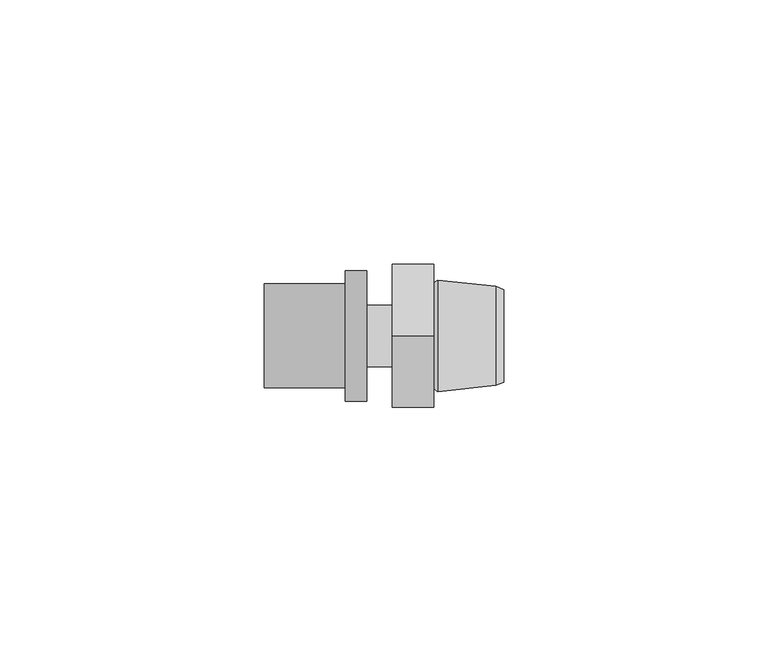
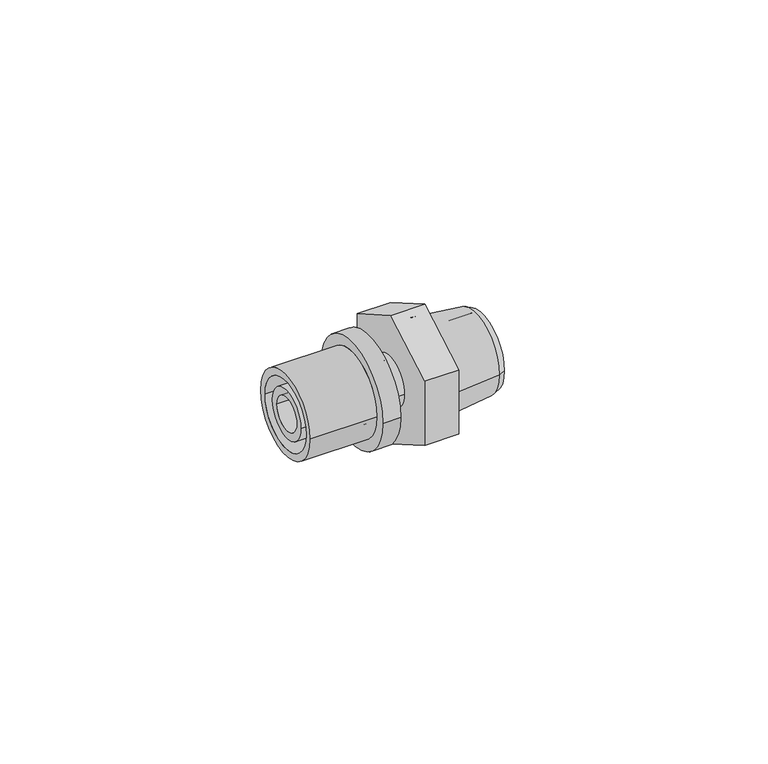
"""IFC4 building model written with IfcOpenShell, lengths in millimetres: pipe fitting geometry, FASTLOC_Adapter_RX+, with external thread : FSL A C external EX+ AT."""

from ifc_helpers import new_model, si_unit, frame, origin, place, context, project, spatial, polyline, circle_curve, outline, extrude, source, transform, mapped, element, save
from ifc_brep_helpers import plane_surface, cylinder_surface, revolved_surface, advanced_brep


def pipe_fitting_3f045704(model_context):
    return source(origin(), model_context, "Body", "SolidModel", [
        advanced_brep(
        [(-8.9, -12.35, 0.0), (-8.9, 12.35, 0.0), (-4.9, 12.35, 0.0), (-4.9, -12.35, 0.0), (-24.2, -9.85, 0.0), (-24.2, 9.85, 0.0), (-8.9, 9.85, 0.0), (-8.9, -9.85, 0.0), (-4.9, -8.15, 0.0), (-4.9, 8.15, 0.0), (-24.2, 8.15, 0.0), (-24.2, -8.15, 0.0)],
        [
            (0, 1, circle_curve(frame((-8.9, 0.0, 0.0), z_axis=(1.0, 0.0, 0.0), x_axis=(0.0, 1.0, 0.0)), 12.35)),
            (1, 2),
            (2, 3, circle_curve(frame((-4.9, 0.0, 0.0), z_axis=(-1.0, 0.0, 0.0), x_axis=(0.0, 1.0, 0.0)), 12.35)),
            (3, 0),
            (4, 5, circle_curve(frame((-24.2, 0.0, 0.0), z_axis=(1.0, 0.0, 0.0), x_axis=(0.0, 1.0, 0.0)), 9.85)),
            (5, 6),
            (6, 7, circle_curve(frame((-8.9, 0.0, 0.0), z_axis=(-1.0, 0.0, 0.0), x_axis=(0.0, 1.0, 0.0)), 9.85)),
            (7, 4),
            (8, 9, circle_curve(frame((-4.9, 0.0, 0.0), z_axis=(1.0, 0.0, 0.0), x_axis=(0.0, 1.0, 0.0)), 8.15)),
            (9, 10),
            (10, 11, circle_curve(frame((-24.2, 0.0, 0.0), z_axis=(-1.0, 0.0, 0.0), x_axis=(0.0, 1.0, 0.0)), 8.15)),
            (11, 8),
            (1, 0, circle_curve(frame((-8.9, 0.0, 0.0), z_axis=(1.0, 0.0, 0.0), x_axis=(0.0, -1.0, 0.0)), 12.35)),
            (3, 2, circle_curve(frame((-4.9, 0.0, 0.0), z_axis=(-1.0, 0.0, 0.0), x_axis=(0.0, -1.0, 0.0)), 12.35)),
            (6, 7, circle_curve(frame((-8.9, 0.0, 0.0), z_axis=(1.0, 0.0, 0.0), x_axis=(0.0, -1.0, 0.0)), 9.85)),
            (5, 4, circle_curve(frame((-24.2, 0.0, 0.0), z_axis=(1.0, 0.0, 0.0), x_axis=(0.0, -1.0, 0.0)), 9.85)),
            (10, 11, circle_curve(frame((-24.2, 0.0, 0.0), z_axis=(1.0, 0.0, 0.0), x_axis=(0.0, -1.0, 0.0)), 8.15)),
            (9, 8, circle_curve(frame((-4.9, 0.0, 0.0), z_axis=(1.0, 0.0, 0.0), x_axis=(0.0, -1.0, 0.0)), 8.15)),
        ],
        [
            cylinder_surface(frame((-4.9, 0.0, 0.0), z_axis=(-1.0, 0.0, 0.0), x_axis=(0.0, 1.0, 0.0)), 12.35),
            cylinder_surface(frame((-4.9, 0.0, 0.0), z_axis=(-1.0, 0.0, 0.0), x_axis=(0.0, 1.0, 0.0)), 9.85),
            revolved_surface(polyline([(-24.199999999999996, 8.15, 0.0), (-4.9, 8.15, 0.0)]), (-4.9, 0.0, 0.0), (-1.0, 0.0, 0.0)),
            cylinder_surface(frame((-4.9, 0.0, 0.0), z_axis=(-1.0, 0.0, 0.0), x_axis=(0.0, -1.0, 0.0)), 12.35),
            plane_surface(frame((-8.9, 0.0, 0.0), z_axis=(-1.0, 0.0, 0.0), x_axis=(0.0, -1.0, 0.0))),
            cylinder_surface(frame((-4.9, 0.0, 0.0), z_axis=(-1.0, 0.0, 0.0), x_axis=(0.0, -1.0, 0.0)), 9.85),
            plane_surface(frame((-24.2, 0.0, 0.0), z_axis=(-1.0, 0.0, 0.0), x_axis=(0.0, -1.0, 0.0))),
            revolved_surface(polyline([(-24.199999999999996, -8.15, 0.0), (-4.9, -8.15, 0.0)]), (-4.9, 0.0, 0.0), (-1.0, 0.0, 0.0)),
            plane_surface(frame((-4.9, 0.0, 0.0), z_axis=(1.0, 0.0, 0.0), x_axis=(0.0, -1.0, 0.0))),
        ],
        [
            (0, [[1, 2, 3, 4]]),
            (1, [[5, 6, 7, 8]]),
            (2, [[9, 10, 11, 12]]),
            (3, [[13, -4, 14, -2]]),
            (4, [[-13, -1], [15, -7]]),
            (5, [[16, -8, -15, -6]]),
            (6, [[-16, -5], [17, -11]]),
            (7, [[18, -12, -17, -10]]),
            (8, [[-14, -3], [-18, -9]]),
        ],
    ),
        advanced_brep(
        [(8.9032803, 7.5, 0.0), (8.9032803, -7.5, 0.0), (21.0, -7.5, 0.0), (21.0, 7.5, 0.0), (7.8, 6.3967197, 0.0), (7.8, -6.3967197, 0.0), (8.5406902, 10.55, 0.0), (8.5406902, -10.55, 0.0), (7.8, -10.0, 0.0), (7.8, 10.0, 0.0), (19.5000007, 9.35, 0.0), (19.5000007, -9.35, 0.0), (21.0, 8.725, 0.0), (21.0, -8.725, 0.0)],
        [
            (0, 1, circle_curve(frame((8.9032803, 0.0, 0.0), z_axis=(-1.0, 0.0, 0.0), x_axis=(0.0, -1.0, 0.0)), 7.5)),
            (1, 2),
            (2, 3, circle_curve(frame((21.0, 0.0, 0.0), z_axis=(1.0, 0.0, 0.0), x_axis=(0.0, -1.0, 0.0)), 7.5)),
            (3, 0),
            (4, 5, circle_curve(frame((7.8, 0.0, 0.0), z_axis=(-1.0, 0.0, 0.0), x_axis=(0.0, -1.0, 0.0)), 6.3967197)),
            (5, 1),
            (0, 4),
            (6, 7, circle_curve(frame((8.5406902, 0.0, 0.0), z_axis=(-1.0, 0.0, 0.0), x_axis=(0.0, -1.0, 0.0)), 10.55)),
            (7, 8),
            (8, 9, circle_curve(frame((7.8, 0.0, 0.0), z_axis=(1.0, 0.0, 0.0), x_axis=(0.0, -1.0, 0.0)), 10.0)),
            (9, 6),
            (10, 11, circle_curve(frame((19.5000007, 0.0, 0.0), z_axis=(-1.0, 0.0, 0.0), x_axis=(0.0, -1.0, 0.0)), 9.35)),
            (11, 7),
            (6, 10),
            (12, 13, circle_curve(frame((21.0, 0.0, 0.0), z_axis=(-1.0, 0.0, 0.0), x_axis=(0.0, -1.0, 0.0)), 8.725)),
            (13, 11),
            (10, 12),
            (1, 0, circle_curve(frame((8.9032803, 0.0, 0.0), z_axis=(-1.0, 0.0, 0.0), x_axis=(0.0, 1.0, 0.0)), 7.5)),
            (3, 2, circle_curve(frame((21.0, 0.0, 0.0), z_axis=(1.0, 0.0, 0.0), x_axis=(0.0, 1.0, 0.0)), 7.5)),
            (5, 4, circle_curve(frame((7.8, 0.0, 0.0), z_axis=(-1.0, 0.0, 0.0), x_axis=(0.0, 1.0, 0.0)), 6.3967197)),
            (8, 9, circle_curve(frame((7.8, 0.0, 0.0), z_axis=(-1.0, 0.0, 0.0), x_axis=(0.0, 1.0, 0.0)), 10.0)),
            (7, 6, circle_curve(frame((8.5406902, 0.0, 0.0), z_axis=(-1.0, 0.0, 0.0), x_axis=(0.0, 1.0, 0.0)), 10.55)),
            (11, 10, circle_curve(frame((19.5000007, 0.0, 0.0), z_axis=(-1.0, 0.0, 0.0), x_axis=(0.0, 1.0, 0.0)), 9.35)),
            (13, 12, circle_curve(frame((21.0, 0.0, 0.0), z_axis=(-1.0, 0.0, 0.0), x_axis=(0.0, 1.0, 0.0)), 8.725)),
        ],
        [
            revolved_surface(polyline([(21.0, -7.5, 0.0), (8.9032803, -7.5, 0.0)]), (0.0, 0.0, 0.0), (1.0, 0.0, 0.0)),
            revolved_surface(polyline([(8.9032803, -7.5, 0.0), (7.8, -6.3967197, 0.0)]), (0.0, 0.0, 0.0), (1.0, 0.0, 0.0)),
            revolved_surface(polyline([(7.8, -10.0, 0.0), (8.5406902, -10.55, 0.0)]), (0.0, 0.0, 0.0), (1.0, 0.0, 0.0)),
            revolved_surface(polyline([(8.5406902, -10.55, 0.0), (19.5000007, -9.35, 0.0)]), (0.0, 0.0, 0.0), (1.0, 0.0, 0.0)),
            revolved_surface(polyline([(19.5000007, -9.35, 0.0), (21.0, -8.725, 0.0)]), (0.0, 0.0, 0.0), (1.0, 0.0, 0.0)),
            revolved_surface(polyline([(21.0, 7.5, 0.0), (8.9032803, 7.5, 0.0)]), (0.0, 0.0, 0.0), (1.0, 0.0, 0.0)),
            revolved_surface(polyline([(8.9032803, 7.5, 0.0), (7.8, 6.3967197, 0.0)]), (0.0, 0.0, 0.0), (1.0, 0.0, 0.0)),
            plane_surface(frame((7.8, 0.0, 0.0), z_axis=(-1.0, 0.0, 0.0), x_axis=(0.0, 1.0, 0.0))),
            revolved_surface(polyline([(7.8, 10.0, 0.0), (8.5406902, 10.55, 0.0)]), (0.0, 0.0, 0.0), (1.0, 0.0, 0.0)),
            revolved_surface(polyline([(8.5406902, 10.55, 0.0), (19.5000007, 9.35, 0.0)]), (0.0, 0.0, 0.0), (1.0, 0.0, 0.0)),
            revolved_surface(polyline([(19.5000007, 9.35, 0.0), (21.0, 8.725, 0.0)]), (0.0, 0.0, 0.0), (1.0, 0.0, 0.0)),
            plane_surface(frame((21.0, 0.0, 0.0), z_axis=(1.0, 0.0, 0.0), x_axis=(0.0, 1.0, 0.0))),
        ],
        [
            (0, [[1, 2, 3, 4]]),
            (1, [[5, 6, -1, 7]]),
            (2, [[8, 9, 10, 11]]),
            (3, [[12, 13, -8, 14]]),
            (4, [[15, 16, -12, 17]]),
            (5, [[18, -4, 19, -2]]),
            (6, [[20, -7, -18, -6]]),
            (7, [[21, -10], [-20, -5]]),
            (8, [[22, -11, -21, -9]]),
            (9, [[23, -14, -22, -13]]),
            (10, [[24, -17, -23, -16]]),
            (11, [[-24, -15], [-19, -3]]),
        ],
    ),
        extrude(outline(polyline([(-13.5, 7.7942286), (0.0, 15.5884573), (13.5, 7.7942286), (13.5, -7.7942286), (0.0, -15.5884573), (-13.5, -7.7942286), (-13.5, 7.7942286)])), frame((0.0, 0.0, 0.0), z_axis=(1.0, 0.0, 0.0), x_axis=(0.0, 1.0, 0.0)), (0.0, 0.0, 1.0), 7.8),
        advanced_brep(
        [(-23.9, 3.95, 0.0), (-23.9, -3.95, 0.0), (0.0, -3.95, 0.0), (0.0, 3.95, 0.0), (0.0, 5.8, 0.0), (0.0, -5.8, 0.0), (-6.2, -5.8, 0.0), (-6.2, 5.8, 0.0), (-6.2, 6.9, 0.0), (-6.2, -6.9, 0.0), (-8.9, -6.9, 0.0), (-8.9, 6.9, 0.0), (-8.9, 5.8, 0.0), (-8.9, -5.8, 0.0), (-23.9, -5.8, 0.0), (-23.9, 5.8, 0.0)],
        [
            (0, 1, circle_curve(frame((-23.9, 0.0, 0.0), z_axis=(-1.0, 0.0, 0.0), x_axis=(0.0, -1.0, 0.0)), 3.95)),
            (1, 2),
            (2, 3, circle_curve(frame((0.0, 0.0, 0.0), z_axis=(1.0, 0.0, 0.0), x_axis=(0.0, -1.0, 0.0)), 3.95)),
            (3, 0),
            (4, 5, circle_curve(frame((0.0, 0.0, 0.0), z_axis=(-1.0, 0.0, 0.0), x_axis=(0.0, -1.0, 0.0)), 5.8)),
            (5, 6),
            (6, 7, circle_curve(frame((-6.2, 0.0, 0.0), z_axis=(1.0, 0.0, 0.0), x_axis=(0.0, -1.0, 0.0)), 5.8)),
            (7, 4),
            (8, 9, circle_curve(frame((-6.2, 0.0, 0.0), z_axis=(-1.0, 0.0, 0.0), x_axis=(0.0, -1.0, 0.0)), 6.9)),
            (9, 10),
            (10, 11, circle_curve(frame((-8.9, 0.0, 0.0), z_axis=(1.0, 0.0, 0.0), x_axis=(0.0, -1.0, 0.0)), 6.9)),
            (11, 8),
            (12, 13, circle_curve(frame((-8.9, 0.0, 0.0), z_axis=(-1.0, 0.0, 0.0), x_axis=(0.0, -1.0, 0.0)), 5.8)),
            (13, 14),
            (14, 15, circle_curve(frame((-23.9, 0.0, 0.0), z_axis=(1.0, 0.0, 0.0), x_axis=(0.0, -1.0, 0.0)), 5.8)),
            (15, 12),
            (1, 0, circle_curve(frame((-23.9, 0.0, 0.0), z_axis=(-1.0, 0.0, 0.0), x_axis=(0.0, 1.0, 0.0)), 3.95)),
            (3, 2, circle_curve(frame((0.0, 0.0, 0.0), z_axis=(1.0, 0.0, 0.0), x_axis=(0.0, 1.0, 0.0)), 3.95)),
            (4, 5, circle_curve(frame((0.0, 0.0, 0.0), z_axis=(1.0, 0.0, 0.0), x_axis=(0.0, 1.0, 0.0)), 5.8)),
            (7, 6, circle_curve(frame((-6.2, 0.0, 0.0), z_axis=(1.0, 0.0, 0.0), x_axis=(0.0, 1.0, 0.0)), 5.8)),
            (8, 9, circle_curve(frame((-6.2, 0.0, 0.0), z_axis=(1.0, 0.0, 0.0), x_axis=(0.0, 1.0, 0.0)), 6.9)),
            (11, 10, circle_curve(frame((-8.9, 0.0, 0.0), z_axis=(1.0, 0.0, 0.0), x_axis=(0.0, 1.0, 0.0)), 6.9)),
            (12, 13, circle_curve(frame((-8.9, 0.0, 0.0), z_axis=(1.0, 0.0, 0.0), x_axis=(0.0, 1.0, 0.0)), 5.8)),
            (15, 14, circle_curve(frame((-23.9, 0.0, 0.0), z_axis=(1.0, 0.0, 0.0), x_axis=(0.0, 1.0, 0.0)), 5.8)),
        ],
        [
            revolved_surface(polyline([(0.0, -3.95, 0.0), (-23.9, -3.95, 0.0)]), (0.0, 0.0, 0.0), (1.0, 0.0, 0.0)),
            cylinder_surface(frame((0.0, 0.0, 0.0), z_axis=(1.0, 0.0, 0.0), x_axis=(0.0, -1.0, 0.0)), 5.8),
            cylinder_surface(frame((0.0, 0.0, 0.0), z_axis=(1.0, 0.0, 0.0), x_axis=(0.0, -1.0, 0.0)), 6.9),
            revolved_surface(polyline([(0.0, 3.95, 0.0), (-23.9, 3.95, 0.0)]), (0.0, 0.0, 0.0), (1.0, 0.0, 0.0)),
            plane_surface(frame((0.0, 0.0, 0.0), z_axis=(1.0, 0.0, 0.0), x_axis=(0.0, 1.0, 0.0))),
            cylinder_surface(frame((0.0, 0.0, 0.0), z_axis=(1.0, 0.0, 0.0), x_axis=(0.0, 1.0, 0.0)), 5.8),
            plane_surface(frame((-6.2, 0.0, 0.0), z_axis=(1.0, 0.0, 0.0), x_axis=(0.0, 1.0, 0.0))),
            cylinder_surface(frame((0.0, 0.0, 0.0), z_axis=(1.0, 0.0, 0.0), x_axis=(0.0, 1.0, 0.0)), 6.9),
            plane_surface(frame((-8.9, 0.0, 0.0), z_axis=(-1.0, 0.0, 0.0), x_axis=(0.0, 1.0, 0.0))),
            plane_surface(frame((-23.9, 0.0, 0.0), z_axis=(-1.0, 0.0, 0.0), x_axis=(0.0, 1.0, 0.0))),
        ],
        [
            (0, [[1, 2, 3, 4]]),
            (1, [[5, 6, 7, 8]]),
            (2, [[9, 10, 11, 12]]),
            (1, [[13, 14, 15, 16]]),
            (3, [[17, -4, 18, -2]]),
            (4, [[19, -5], [-18, -3]]),
            (5, [[-19, -8, 20, -6]]),
            (6, [[21, -9], [-20, -7]]),
            (7, [[-21, -12, 22, -10]]),
            (8, [[-22, -11], [23, -13]]),
            (5, [[-23, -16, 24, -14]]),
            (9, [[-24, -15], [-17, -1]]),
        ],
    ),
    ])


if __name__ == "__main__":
    model = new_model("IFC4")
    model_context = context("Model", 3, world=origin())
    ifc_project = project(units=[si_unit("LENGTHUNIT", "METRE", prefix="MILLI")], contexts=[model_context])
    site = spatial("IfcSite", under=ifc_project)
    building = spatial("IfcBuilding", under=site)
    placement = place(None, origin())
    pipe_fitting_shape = pipe_fitting_3f045704(model_context)
    element("IfcPipeFitting", 1, ObjectType="FASTLOC_Adapter_RX+, with external thread : FSL A C external EX+ AT", at=placement, inside=building, context=model_context, shape_type="MappedRepresentation", body=[
        mapped(pipe_fitting_shape, transform((0.0, 0.0, 0.0), x_axis=(1.0, 0.0, 0.0), y_axis=(0.0, 1.0, 0.0), z_axis=(0.0, 0.0, 1.0))),
    ])
    save(model, "model.ifc")
